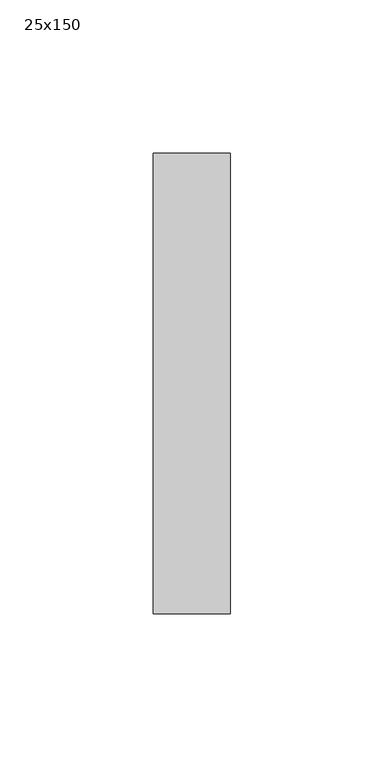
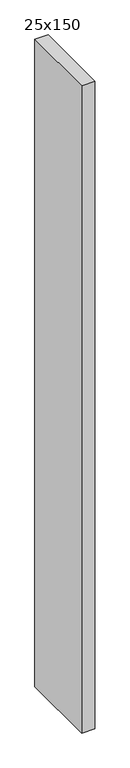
"""IFC4 building model written with IfcOpenShell, lengths in millimetres: member geometry, 長方形のマリオン : 25x150."""

from ifc_helpers import new_model, si_unit, frame, origin, place, context, project, spatial, polyline, outline, extrude, source, transform, mapped, element, save


def member_25x150_6388a252(model_context):
    return source(origin(), model_context, "Body", "SweptSolid", [
        extrude(outline(polyline([(0.0, 75.0), (0.0, -75.0), (-25.0, -75.0), (-25.0, 75.0), (0.0, 75.0)])), frame((0.0, 0.0, -1271.861911), z_axis=(0.0, 0.0, 1.0), x_axis=(1.0, 0.0, 0.0)), (0.0, 0.0, 1.0), 1271.861911),
    ])


if __name__ == "__main__":
    model = new_model("IFC4")
    model_context = context("Model", 3, world=origin())
    ifc_project = project(units=[si_unit("LENGTHUNIT", "METRE", prefix="MILLI")], contexts=[model_context])
    site = spatial("IfcSite", under=ifc_project)
    building = spatial("IfcBuilding", under=site)
    placement = place(None, origin())
    member_25x150_shape = member_25x150_6388a252(model_context)
    element("IfcMember", 1, ObjectType="長方形のマリオン : 25x150", at=placement, inside=building, context=model_context, shape_type="MappedRepresentation", body=[
        mapped(member_25x150_shape, transform((0.0, 0.0, 0.0), x_axis=(1.0, 0.0, 0.0), y_axis=(0.0, 1.0, 0.0), z_axis=(0.0, 0.0, 1.0))),
    ])
    save(model, "model.ifc")
